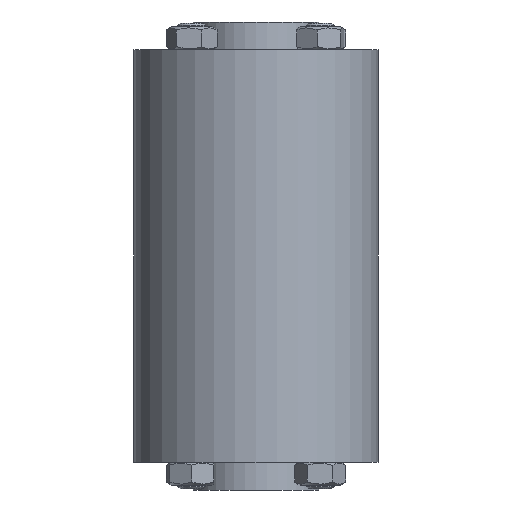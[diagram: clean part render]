
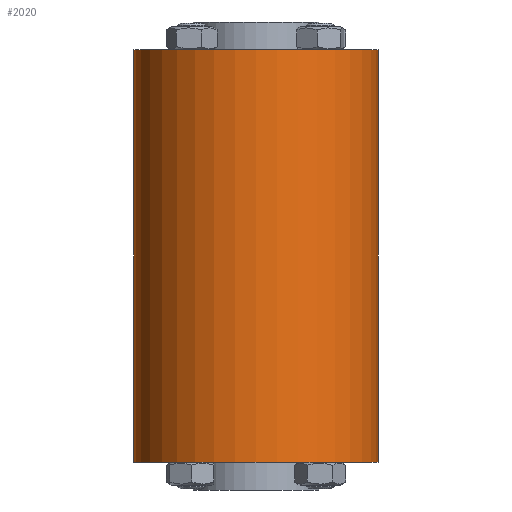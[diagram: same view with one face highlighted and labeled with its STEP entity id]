
A CAD part, front view. The second image highlights one B-rep face of the part: STEP entity #2020.
In plain terms, the highlighted cylindrical face has radius 52.5 mm (diameter 105 mm), a full revolution.
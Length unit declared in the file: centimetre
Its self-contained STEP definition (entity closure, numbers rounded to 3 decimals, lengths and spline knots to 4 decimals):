
#29=CYLINDRICAL_SURFACE('',#2215,5.25);
#353=FACE_BOUND('',#680,.T.);
#499=FACE_OUTER_BOUND('',#679,.T.);
#679=EDGE_LOOP('',(#1619));
#680=EDGE_LOOP('',(#1620));
#837=CIRCLE('',#2216,5.25);
#838=CIRCLE('',#2217,5.25);
#1009=VERTEX_POINT('',#3373);
#1010=VERTEX_POINT('',#3375);
#1235=EDGE_CURVE('',#1009,#1009,#837,.T.);
#1236=EDGE_CURVE('',#1010,#1010,#838,.T.);
#1619=ORIENTED_EDGE('',*,*,#1235,.F.);
#1620=ORIENTED_EDGE('',*,*,#1236,.F.);
#2020=ADVANCED_FACE('',(#499,#353),#29,.T.);
#2215=AXIS2_PLACEMENT_3D('',#3372,#2617,#2618);
#2216=AXIS2_PLACEMENT_3D('',#3374,#2619,#2620);
#2217=AXIS2_PLACEMENT_3D('',#3376,#2621,#2622);
#2617=DIRECTION('center_axis',(0.,0.,
1.));
#2618=DIRECTION('ref_axis',(1.,0.,0.));
#2619=DIRECTION('center_axis',(0.,0.,
-1.));
#2620=DIRECTION('ref_axis',(0.,-1.,0.));
#2621=DIRECTION('center_axis',(0.,0.,
1.));
#2622=DIRECTION('ref_axis',(0.,-1.,0.));
#3372=CARTESIAN_POINT('Origin',(0.,0.,
8.5));
#3373=CARTESIAN_POINT('',(5.25,0.,-8.85));
#3374=CARTESIAN_POINT('Origin',(0.,0.,
-8.85));
#3375=CARTESIAN_POINT('',(5.25,0.,8.85));
#3376=CARTESIAN_POINT('Origin',(0.,0.,
8.85));
